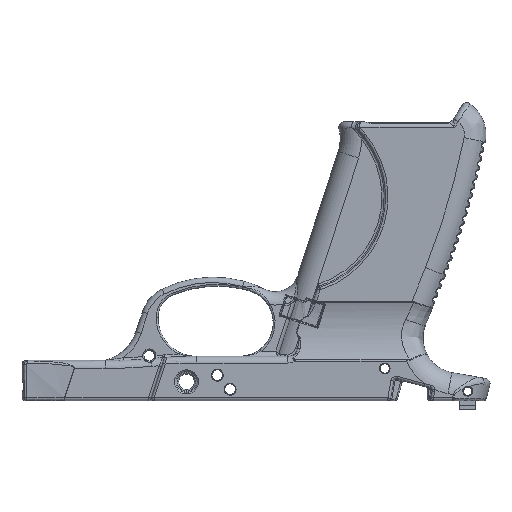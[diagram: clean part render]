
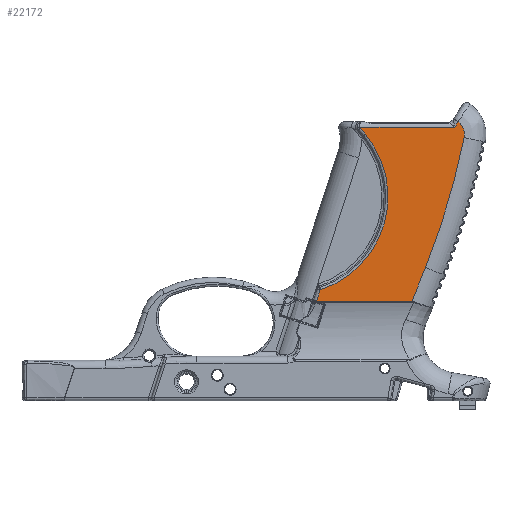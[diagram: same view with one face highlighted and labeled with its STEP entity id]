
A CAD part, front view. The second image highlights one B-rep face of the part: STEP entity #22172.
In plain terms, the highlighted planar face has unit normal (0, -1, 0).
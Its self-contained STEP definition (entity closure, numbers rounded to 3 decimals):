
#1113=PLANE('',#24168);
#1815=FACE_OUTER_BOUND('',#3317,.T.);
#3317=EDGE_LOOP('',(#16927,#16928,#16929,#16930,#16931,#16932,#16933,#16934,
#16935,#16936,#16937));
#4534=CIRCLE('',#23632,282.274);
#4808=CIRCLE('',#24169,6.);
#4809=CIRCLE('',#24170,36.518);
#6029=LINE('',#43325,#7118);
#6211=LINE('',#47040,#7300);
#6214=LINE('',#47063,#7303);
#6215=LINE('',#47066,#7304);
#6216=LINE('',#47070,#7305);
#6217=LINE('',#47072,#7306);
#7118=VECTOR('',#27441,10.);
#7300=VECTOR('',#28403,10.);
#7303=VECTOR('',#28416,10.);
#7304=VECTOR('',#28421,10.);
#7305=VECTOR('',#28424,10.);
#7306=VECTOR('',#28425,10.);
#8189=B_SPLINE_CURVE_WITH_KNOTS('',3,(#47074,#47075,#47076,#47077),
 .UNSPECIFIED.,.F.,.F.,(4,4),(0.,0.042),
 .UNSPECIFIED.);
#8190=B_SPLINE_CURVE_WITH_KNOTS('',3,(#47079,#47080,#47081,#47082),
 .UNSPECIFIED.,.F.,.F.,(4,4),(-0.882,-0.597),
 .UNSPECIFIED.);
#9116=VERTEX_POINT('',#38317);
#9117=VERTEX_POINT('',#38319);
#9230=VERTEX_POINT('',#43324);
#9555=VERTEX_POINT('',#46990);
#9556=VERTEX_POINT('',#47013);
#9562=VERTEX_POINT('',#47062);
#9563=VERTEX_POINT('',#47067);
#9564=VERTEX_POINT('',#47069);
#9565=VERTEX_POINT('',#47071);
#9566=VERTEX_POINT('',#47073);
#9567=VERTEX_POINT('',#47078);
#11367=EDGE_CURVE('',#9116,#9117,#4534,.T.);
#11591=EDGE_CURVE('',#9117,#9230,#6029,.T.);
#12132=EDGE_CURVE('',#9556,#9555,#6211,.T.);
#12139=EDGE_CURVE('',#9555,#9562,#6214,.T.);
#12141=EDGE_CURVE('',#9230,#9556,#6215,.T.);
#12142=EDGE_CURVE('',#9563,#9116,#4808,.T.);
#12143=EDGE_CURVE('',#9564,#9563,#6216,.T.);
#12144=EDGE_CURVE('',#9565,#9564,#6217,.T.);
#12145=EDGE_CURVE('',#9566,#9565,#8189,.T.);
#12146=EDGE_CURVE('',#9567,#9566,#8190,.T.);
#12147=EDGE_CURVE('',#9562,#9567,#4809,.T.);
#16927=ORIENTED_EDGE('',*,*,#12132,.F.);
#16928=ORIENTED_EDGE('',*,*,#12141,.F.);
#16929=ORIENTED_EDGE('',*,*,#11591,.F.);
#16930=ORIENTED_EDGE('',*,*,#11367,.F.);
#16931=ORIENTED_EDGE('',*,*,#12142,.F.);
#16932=ORIENTED_EDGE('',*,*,#12143,.F.);
#16933=ORIENTED_EDGE('',*,*,#12144,.F.);
#16934=ORIENTED_EDGE('',*,*,#12145,.F.);
#16935=ORIENTED_EDGE('',*,*,#12146,.F.);
#16936=ORIENTED_EDGE('',*,*,#12147,.F.);
#16937=ORIENTED_EDGE('',*,*,#12139,.F.);
#22172=ADVANCED_FACE('',(#1815),#1113,.T.);
#23632=AXIS2_PLACEMENT_3D('',#38320,#27101,#27102);
#24168=AXIS2_PLACEMENT_3D('',#47065,#28419,#28420);
#24169=AXIS2_PLACEMENT_3D('',#47068,#28422,#28423);
#24170=AXIS2_PLACEMENT_3D('',#47083,#28426,#28427);
#27101=DIRECTION('center_axis',(0.,1.,0.));
#27102=DIRECTION('ref_axis',(0.958,0.,-0.286));
#27441=DIRECTION('',(-0.371,0.,-0.929));
#28403=DIRECTION('',(-0.952,0.,0.306));
#28416=DIRECTION('',(0.309,0.,0.951));
#28419=DIRECTION('center_axis',(0.,-1.,0.));
#28420=DIRECTION('ref_axis',(1.,0.,0.));
#28421=DIRECTION('',(-1.,0.,0.));
#28422=DIRECTION('center_axis',(0.,1.,0.));
#28423=DIRECTION('ref_axis',(0.863,0.,0.505));
#28424=DIRECTION('',(0.531,0.,0.848));
#28425=DIRECTION('',(1.,0.,0.));
#28426=DIRECTION('center_axis',(0.,-1.,0.));
#28427=DIRECTION('ref_axis',(0.962,0.,-0.272));
#38317=CARTESIAN_POINT('',(89.046,-13.75,58.092));
#38319=CARTESIAN_POINT('',(74.571,-13.75,9.633));
#38320=CARTESIAN_POINT('Origin',(-187.57,-13.75,114.326));
#43324=CARTESIAN_POINT('',(69.538,-13.75,-2.968));
#43325=CARTESIAN_POINT('',(77.289,-13.75,16.44));
#46990=CARTESIAN_POINT('',(33.966,-13.75,-2.917));
#47013=CARTESIAN_POINT('',(34.127,-13.75,-2.968));
#47040=CARTESIAN_POINT('',(39.085,-13.75,-4.56));
#47062=CARTESIAN_POINT('',(35.343,-13.75,1.321));
#47063=CARTESIAN_POINT('',(36.084,-13.75,3.6));
#47065=CARTESIAN_POINT('Origin',(62.214,-13.75,30.354));
#47066=CARTESIAN_POINT('',(110.,-13.75,-2.968));
#47067=CARTESIAN_POINT('',(86.781,-13.75,64.076));
#47068=CARTESIAN_POINT('Origin',(83.166,-13.75,59.287));
#47069=CARTESIAN_POINT('',(85.482,-13.75,62.));
#47070=CARTESIAN_POINT('',(75.697,-13.75,46.369));
#47071=CARTESIAN_POINT('',(50.085,-13.75,62.));
#47072=CARTESIAN_POINT('',(51.607,-13.75,62.));
#47073=CARTESIAN_POINT('',(50.244,-13.75,61.619));
#47074=CARTESIAN_POINT('Ctrl Pts',(50.244,-13.75,61.619));
#47075=CARTESIAN_POINT('Ctrl Pts',(50.149,-13.75,61.723));
#47076=CARTESIAN_POINT('Ctrl Pts',(50.085,-13.75,61.859));
#47077=CARTESIAN_POINT('Ctrl Pts',(50.085,-13.75,62.));
#47078=CARTESIAN_POINT('',(52.112,-13.75,59.473));
#47079=CARTESIAN_POINT('Ctrl Pts',(52.112,-13.75,59.473));
#47080=CARTESIAN_POINT('Ctrl Pts',(51.504,-13.75,60.201));
#47081=CARTESIAN_POINT('Ctrl Pts',(50.881,-13.75,60.916));
#47082=CARTESIAN_POINT('Ctrl Pts',(50.244,-13.75,61.619));
#47083=CARTESIAN_POINT('Origin',(24.087,-13.75,36.061));
